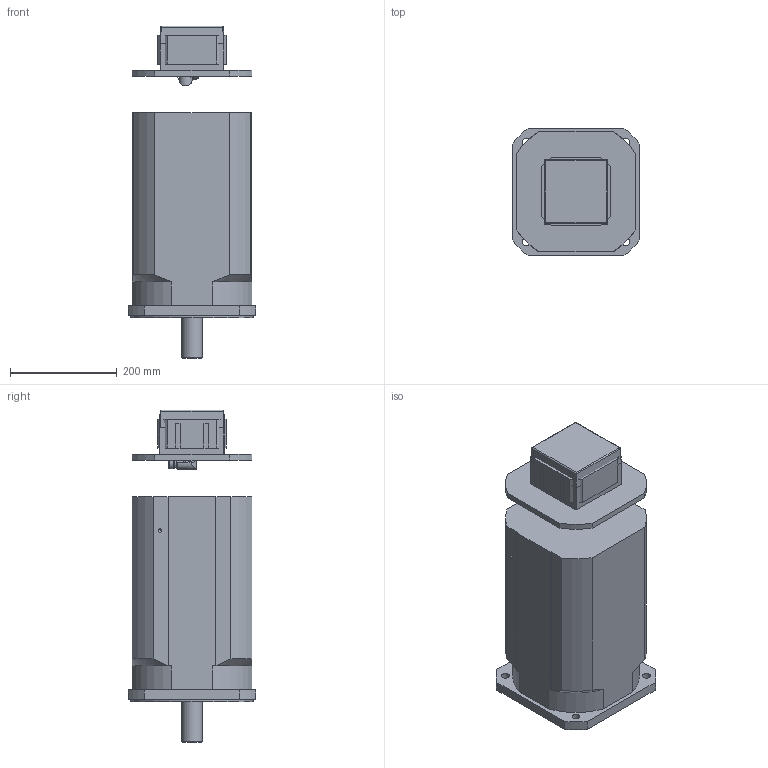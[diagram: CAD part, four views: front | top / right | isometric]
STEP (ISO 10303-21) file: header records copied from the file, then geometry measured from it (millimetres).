
FILE_DESCRIPTION(/* description */ ('Alibre Inc.'),/* implementation_level */ '2;1');
FILE_NAME(/* name */ 'export0',/* time_stamp */ '2011-10-25T13:34:42+02:00',/* author */ (''),/* organization */ (''),/* preprocessor_version */ 'ST-DEVELOPER v12',/* originating_system */ 'Alibre',/* authorisation */ '');
FILE_SCHEMA (('ALIBRE_SCHEMA','CONFIG_CONTROL_DESIGN'));
Length unit declared in the file: millimetre
Products named in the file (8): ID_1
Bounding box: 240 x 240 x 623.5 mm (x, y, z)
Volume: 20722636.1 mm3; surface area: 690399.6 mm2
Topology: 7 solids, 7 shells, 264 faces, 681 edges, 441 vertices
Faces by surface type: plane 123, cylinder 107, torus 15, cone 14, bspline 5
Full cylindrical faces by diameter (mm): 2.7 x4, 6.647 x3, 10.106 x1, 15 x5, 20 x6, 22 x2, 25 x2, 26.75 x1, 30 x2, 38 x1, 45 x1, 230 x1
Entity records: 26853 total; most frequent: CARTESIAN_POINT 6303, DIRECTION 3175, ORIENTED_EDGE 3142, EDGE_CURVE 1571, AXIS2_PLACEMENT_3D 1298, VERTEX_POINT 1100, VECTOR 930, FACE_BOUND 881
